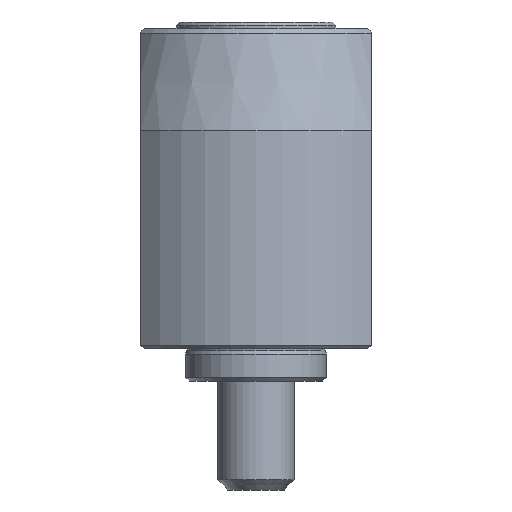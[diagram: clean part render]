
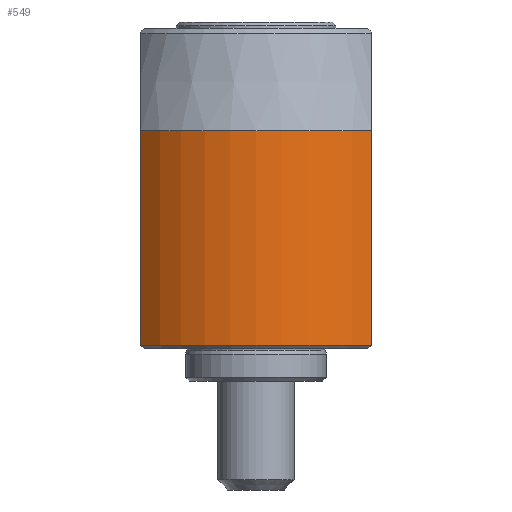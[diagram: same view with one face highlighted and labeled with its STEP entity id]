
A CAD part, left-side view. The second image highlights one B-rep face of the part: STEP entity #549.
In plain terms, the highlighted cylindrical face has radius 24.5 mm (diameter 49 mm), a partial arc.
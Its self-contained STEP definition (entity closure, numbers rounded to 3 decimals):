
#549=ADVANCED_FACE('',(#996),#998,.T.);
#996=FACE_BOUND('',#997,.T.);
#997=EDGE_LOOP('',(#2117,#2118,#2119,#2120));
#998=CYLINDRICAL_SURFACE('',#999,24.5);
#999=AXIS2_PLACEMENT_3D('',#1000,#1001,#1002);
#1000=CARTESIAN_POINT('',(0.,0.,0.));
#1001=DIRECTION('',(0.,0.,1.));
#1002=DIRECTION('',(1.,0.,0.));
#2117=ORIENTED_EDGE('',*,*,#2625,.T.);
#2118=ORIENTED_EDGE('',*,*,#2590,.T.);
#2119=ORIENTED_EDGE('',*,*,#2622,.F.);
#2120=ORIENTED_EDGE('',*,*,#2620,.T.);
#2590=EDGE_CURVE('',#2958,#2960,#2962,.T.);
#2620=EDGE_CURVE('',#3011,#3009,#3012,.F.);
#2622=EDGE_CURVE('',#3011,#2960,#3014,.T.);
#2625=EDGE_CURVE('',#3009,#2958,#3018,.T.);
#2958=VERTEX_POINT('',#3843);
#2960=VERTEX_POINT('',#3847);
#2962=LINE('',#3884,#3885);
#3009=VERTEX_POINT('',#4010);
#3011=VERTEX_POINT('',#4014);
#3012=LINE('',#4015,#4016);
#3014=CIRCLE('',#4054,24.5);
#3018=CIRCLE('',#4068,24.5);
#3843=CARTESIAN_POINT('',(-16.621,-18.,5.6));
#3847=CARTESIAN_POINT('',(-16.621,-18.,39.));
#3884=CARTESIAN_POINT('',(-16.621,-18.,5.6));
#3885=VECTOR('',#3886,1.);
#3886=DIRECTION('',(0.,0.,1.));
#4010=CARTESIAN_POINT('',(-16.621,18.,5.6));
#4014=CARTESIAN_POINT('',(-16.621,18.,39.));
#4015=CARTESIAN_POINT('',(-16.621,18.,5.6));
#4016=VECTOR('',#4017,1.);
#4017=DIRECTION('',(0.,0.,1.));
#4054=AXIS2_PLACEMENT_3D('',#4055,#4056,#4057);
#4055=CARTESIAN_POINT('',(0.,0.,39.));
#4056=DIRECTION('',(0.,0.,1.));
#4057=DIRECTION('',(-0.678,0.735,0.));
#4068=AXIS2_PLACEMENT_3D('',#4069,#4070,#4071);
#4069=CARTESIAN_POINT('',(0.,0.,5.6));
#4070=DIRECTION('',(0.,0.,1.));
#4071=DIRECTION('',(-0.678,0.735,0.));
